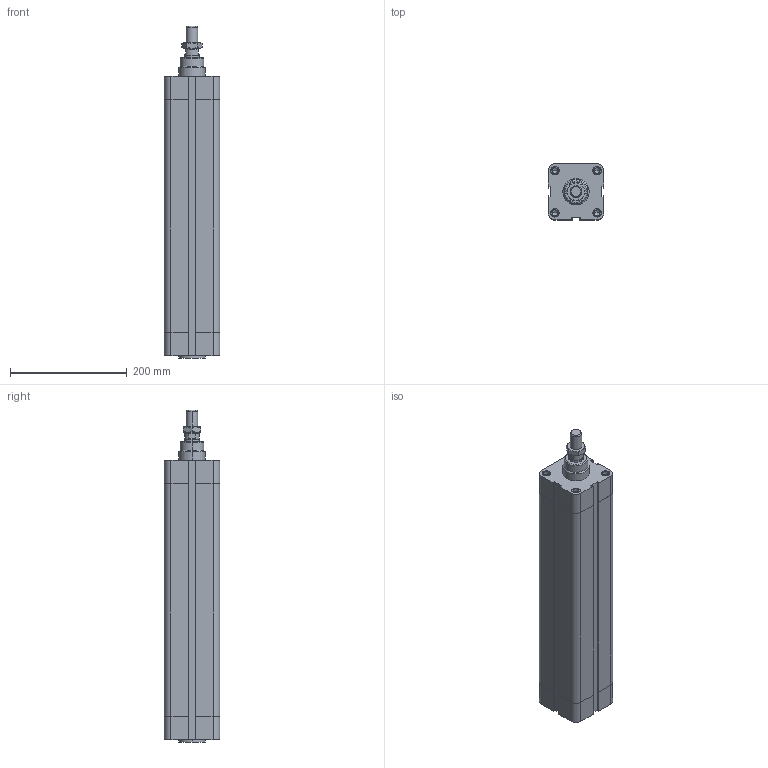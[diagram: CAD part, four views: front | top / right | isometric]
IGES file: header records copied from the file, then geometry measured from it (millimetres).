
Global section: file name: No Iges File Name specified; native system: AutoDesk Inventor R6.1; preprocessor: AutoDesk Inventor Iges Exporter R6.1; author: No Author specified; organization: No Organization specified; date: 20040107.171314; units: millimetre
Bounding box: 95.5 x 95.5 x 568 mm (x, y, z)
Volume: 4246802.1 mm3; surface area: 297234.3 mm2
Topology: 3 solids, 3 shells, 244 faces, 570 edges, 356 vertices
Faces by surface type: plane 83, bspline 67, cylinder 34, revolution 34, cone 24, torus 2
